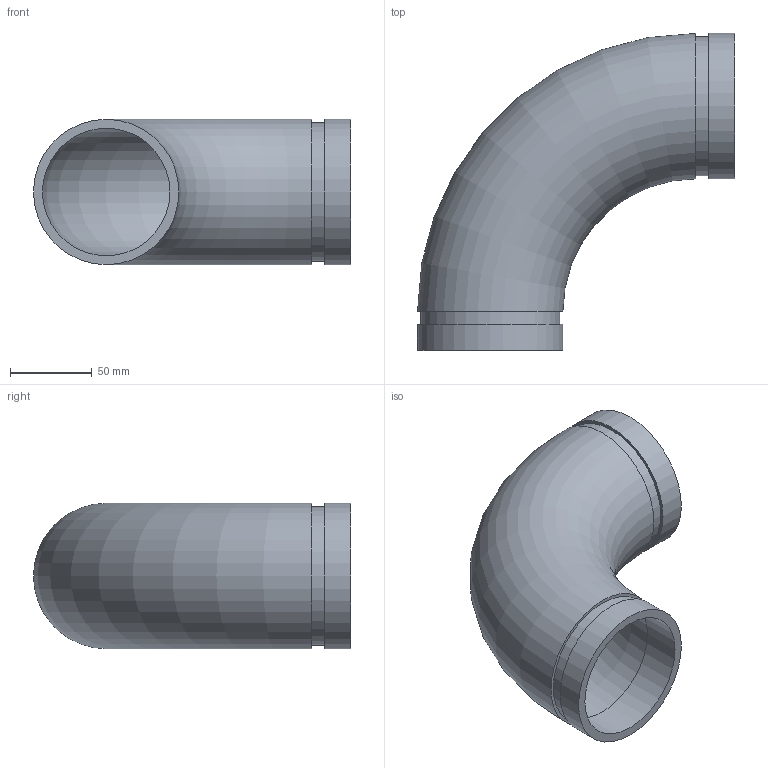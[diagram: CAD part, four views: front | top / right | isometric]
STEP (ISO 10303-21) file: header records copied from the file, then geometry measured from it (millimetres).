
FILE_DESCRIPTION(/* description */ ('VIC SS ELBOW 90 DEG LR No 410DX (OGS)'),/* implementation_level */ '2;1');
FILE_NAME(/* name */ 'C:\Files for Export\SS Duplex\STEP\Victaulic_SS-OGS_Elb 90 Deg LR_No 410DX (OGS)\Victaulic_SS-OGS_Elb 90 Deg LR_No 410DX (OGS)_3 (80).stp',/* time_stamp */ '2024-08-28T10:36:30+02:00',/* author */ ('CORINNE GRAY'),/* organization */ ('Victaulic'),/* preprocessor_version */ 'ST-DEVELOPER v18.1',/* originating_system */ 'Autodesk Inventor 2020',/* authorisation */ '');
FILE_SCHEMA (('AUTOMOTIVE_DESIGN { 1 0 10303 214 3 1 1 }'));
Length unit declared in the file: inch
Products named in the file (1): 410DX-03.0
Bounding box: 193.8 x 193.8 x 88.9 mm (x, y, z)
Volume: 343391.2 mm3; surface area: 133156.3 mm2
Topology: 1 solids, 1 shells, 14 faces, 30 edges, 22 vertices
Faces by surface type: cylinder 6, plane 6, torus 2
Full cylindrical faces by diameter (mm): 77.927 x2, 84.938 x2, 88.9 x2
Entity records: 467 total; most frequent: DIRECTION 84, CARTESIAN_POINT 67, ORIENTED_EDGE 60, AXIS2_PLACEMENT_3D 39, EDGE_CURVE 30, CIRCLE 24, VERTEX_POINT 22, EDGE_LOOP 20
